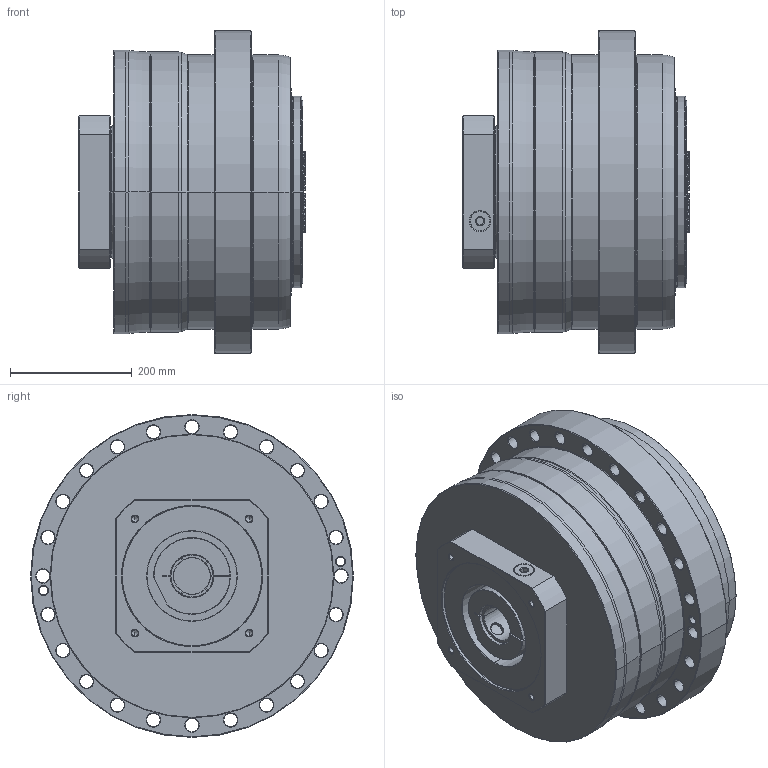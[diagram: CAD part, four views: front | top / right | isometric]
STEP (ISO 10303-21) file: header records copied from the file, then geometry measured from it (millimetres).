
FILE_DESCRIPTION((''),'2;1');
FILE_NAME('APC450_1ST_60-P0409D50101_ASM','2020-12-23T',('d01226'),(''),'PRO/ENGINEER BY PARAMETRIC TECHNOLOGY CORPORATION, 2015240','PRO/ENGINEER BY PARAMETRIC TECHNOLOGY CORPORATION, 2015240','');
FILE_SCHEMA(('CONFIG_CONTROL_DESIGN'));
Length unit declared in the file: millimetre
Products named in the file (9): P0276201003; P03572B0103; P1338210001; P0503D00016; P0942201001; P1222200001; P0409D50101; 21711426021; APC450_1ST_60-P0409D50101_ASM
Assembly tree (8 placements, depth 2):
  APC450_1ST_60-P0409D50101_ASM
    P0276201003
    P03572B0103
    P1338210001
    P0503D00016
    P0942201001
    P1222200001
    P0409D50101
    21711426021
Bounding box: 372.1 x 530 x 530 mm (x, y, z)
Volume: 63685086.3 mm3; surface area: 2032998.2 mm2
Topology: 9 solids, 19 shells, 684 faces, 1699 edges, 1053 vertices
Faces by surface type: cone 236, cylinder 164, plane 140, torus 132, bspline 12
Entity records: 26672 total; most frequent: CARTESIAN_POINT 10065, DIRECTION 3665, ORIENTED_EDGE 3338, EDGE_CURVE 1689, AXIS2_PLACEMENT_3D 1632, VERTEX_POINT 1053, CIRCLE 933, EDGE_LOOP 778
